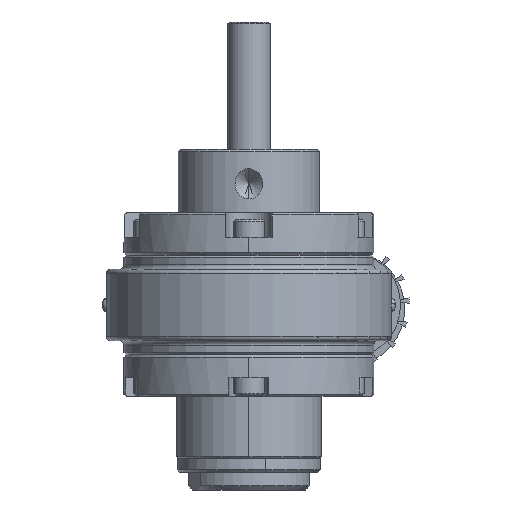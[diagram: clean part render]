
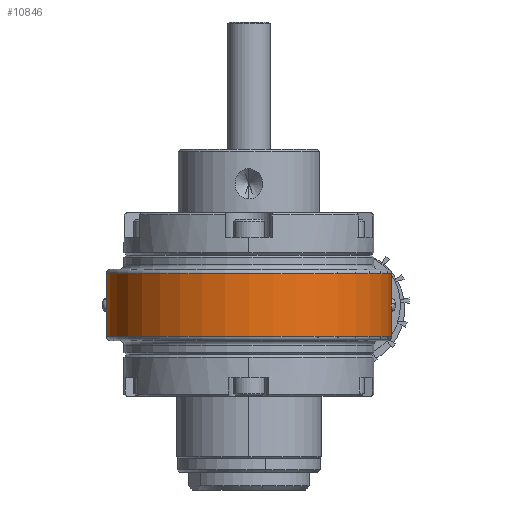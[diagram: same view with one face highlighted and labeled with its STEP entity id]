
A CAD part, front view. The second image highlights one B-rep face of the part: STEP entity #10846.
In plain terms, the highlighted cylindrical face has radius 32 mm (diameter 64 mm), a partial arc.
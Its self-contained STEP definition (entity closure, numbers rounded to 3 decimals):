
#1880 = VERTEX_POINT ( 'NONE', #29337 ) ;
#2623 = CARTESIAN_POINT ( 'NONE',  ( 0., 1.6, 7. ) ) ;
#5310 = VERTEX_POINT ( 'NONE', #16887 ) ;
#10526 = CIRCLE ( 'NONE', #37728, 32. ) ;
#10846 = ADVANCED_FACE ( 'NONE', ( #58955 ), #45339, .T. ) ;
#11504 = DIRECTION ( 'NONE',  ( 1., 0., 0. ) ) ;
#12440 = VECTOR ( 'NONE', #57490, 1000. ) ;
#16887 = CARTESIAN_POINT ( 'NONE',  ( 31.96, 0., -7. ) ) ;
#16920 = DIRECTION ( 'NONE',  ( 0., 0., -1. ) ) ;
#17145 = CARTESIAN_POINT ( 'NONE',  ( -31.96, 0., -7. ) ) ;
#18147 = ORIENTED_EDGE ( 'NONE', *, *, #53850, .T. ) ;
#20286 = VERTEX_POINT ( 'NONE', #17145 ) ;
#21501 = CIRCLE ( 'NONE', #32813, 32. ) ;
#24829 = DIRECTION ( 'NONE',  ( 0., 0., 1. ) ) ;
#26032 = EDGE_LOOP ( 'NONE', ( #18147, #49560, #41272, #29045 ) ) ;
#29045 = ORIENTED_EDGE ( 'NONE', *, *, #54892, .T. ) ;
#29337 = CARTESIAN_POINT ( 'NONE',  ( -31.96, 0., 7. ) ) ;
#29371 = AXIS2_PLACEMENT_3D ( 'NONE', #34665, #16920, #48912 ) ;
#30140 = CARTESIAN_POINT ( 'NONE',  ( -31.96, 0., 8. ) ) ;
#32813 = AXIS2_PLACEMENT_3D ( 'NONE', #52560, #24829, #11504 ) ;
#34665 = CARTESIAN_POINT ( 'NONE',  ( 0., 1.6, 8. ) ) ;
#34736 = DIRECTION ( 'NONE',  ( 0., 0., -1. ) ) ;
#35414 = CARTESIAN_POINT ( 'NONE',  ( 31.96, 0., 7. ) ) ;
#37728 = AXIS2_PLACEMENT_3D ( 'NONE', #2623, #49119, #57763 ) ;
#38017 = EDGE_CURVE ( 'NONE', #20286, #5310, #21501, .T. ) ;
#40095 = LINE ( 'NONE', #48972, #52988 ) ;
#41272 = ORIENTED_EDGE ( 'NONE', *, *, #42596, .F. ) ;
#42596 = EDGE_CURVE ( 'NONE', #52709, #5310, #40095, .T. ) ;
#45339 = CYLINDRICAL_SURFACE ( 'NONE', #29371, 32. ) ;
#48912 = DIRECTION ( 'NONE',  ( -1., 0., 0. ) ) ;
#48972 = CARTESIAN_POINT ( 'NONE',  ( 31.96, 0., 8. ) ) ;
#49119 = DIRECTION ( 'NONE',  ( 0., 0., -1. ) ) ;
#49560 = ORIENTED_EDGE ( 'NONE', *, *, #38017, .T. ) ;
#52560 = CARTESIAN_POINT ( 'NONE',  ( 0., 1.6, -7. ) ) ;
#52709 = VERTEX_POINT ( 'NONE', #35414 ) ;
#52988 = VECTOR ( 'NONE', #34736, 1000. ) ;
#53850 = EDGE_CURVE ( 'NONE', #1880, #20286, #54194, .T. ) ;
#54194 = LINE ( 'NONE', #30140, #12440 ) ;
#54892 = EDGE_CURVE ( 'NONE', #52709, #1880, #10526, .T. ) ;
#57490 = DIRECTION ( 'NONE',  ( 0., 0., -1. ) ) ;
#57763 = DIRECTION ( 'NONE',  ( 1., 0., 0. ) ) ;
#58955 = FACE_OUTER_BOUND ( 'NONE', #26032, .T. ) ;
